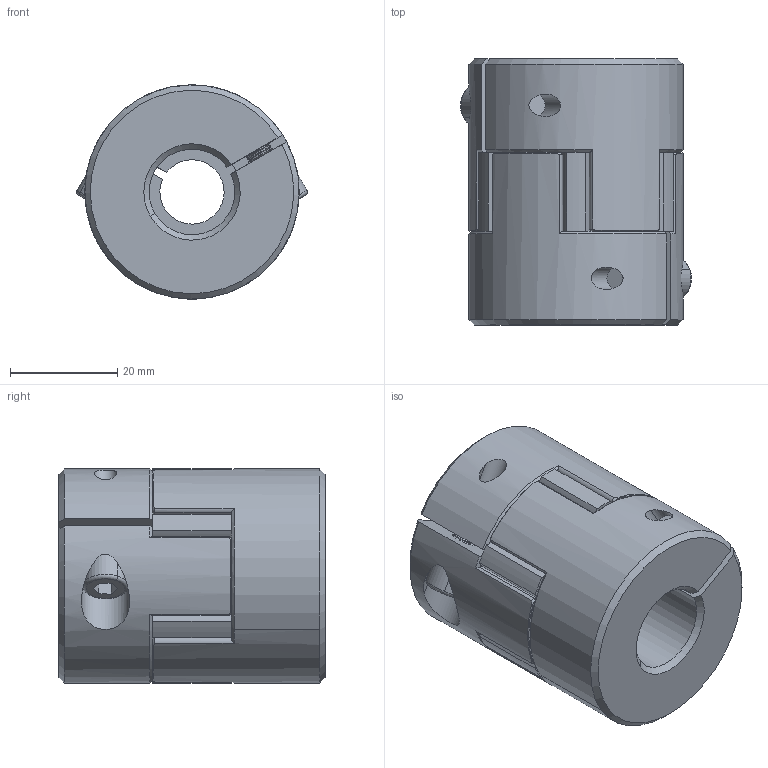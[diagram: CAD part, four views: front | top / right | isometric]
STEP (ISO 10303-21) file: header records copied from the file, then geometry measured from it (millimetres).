
FILE_DESCRIPTION (( 'STEP AP203' ), '1' );
FILE_NAME ('LF-B-D40L50-12-16.STEP', '2021-10-25T02:44:21', ( '' ), ( '' ), 'SwSTEP 2.0', 'SolidWorks 2018', '' );
FILE_SCHEMA (( 'CONFIG_CONTROL_DESIGN' ));
Length unit declared in the file: millimetre
Products named in the file (1): LF-B-D40L50-12-16
Bounding box: 43.11 x 49.7 x 40 mm (x, y, z)
Volume: 51434.4 mm3; surface area: 14639.3 mm2
Topology: 1 solids, 7 shells, 471 faces, 1117 edges, 662 vertices
Faces by surface type: cone 170, cylinder 169, plane 128, torus 4
Entity records: 13972 total; most frequent: CARTESIAN_POINT 2895, DIRECTION 2509, ORIENTED_EDGE 2226, EDGE_CURVE 1113, AXIS2_PLACEMENT_3D 1040, VERTEX_POINT 662, CIRCLE 568, EDGE_LOOP 487
